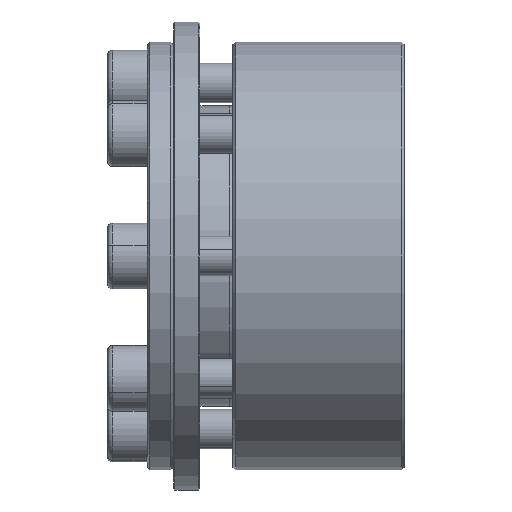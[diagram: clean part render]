
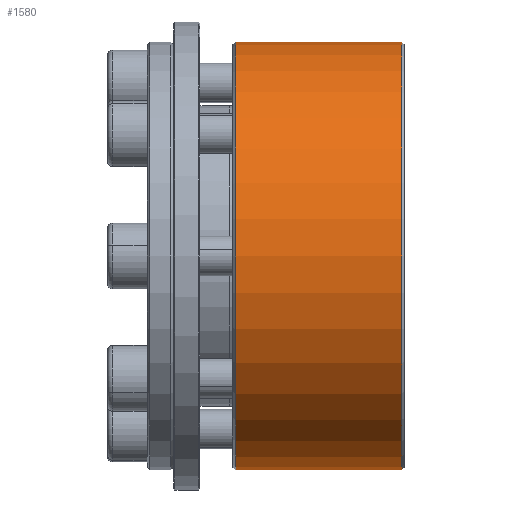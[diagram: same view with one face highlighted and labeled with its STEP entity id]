
A CAD part, front view. The second image highlights one B-rep face of the part: STEP entity #1580.
In plain terms, the highlighted cylindrical face has radius 32.46 mm (diameter 64.92 mm), a partial arc.
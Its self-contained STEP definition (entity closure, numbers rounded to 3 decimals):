
#453 = VERTEX_POINT ( 'NONE', #5755 ) ;
#642 = DIRECTION ( 'NONE',  ( -1., 0., 0. ) ) ;
#674 = CIRCLE ( 'NONE', #1133, 32.46 ) ;
#987 = DIRECTION ( 'NONE',  ( -1., 0., 0. ) ) ;
#1133 = AXIS2_PLACEMENT_3D ( 'NONE', #7966, #2836, #5689 ) ;
#1218 = AXIS2_PLACEMENT_3D ( 'NONE', #6332, #1475, #2176 ) ;
#1475 = DIRECTION ( 'NONE',  ( -1., 0., 0. ) ) ;
#1580 = ADVANCED_FACE ( 'NONE', ( #8515 ), #8473, .T. ) ;
#1740 = CIRCLE ( 'NONE', #3075, 32.46 ) ;
#2176 = DIRECTION ( 'NONE',  ( 0., 0., 1. ) ) ;
#2254 = VERTEX_POINT ( 'NONE', #4271 ) ;
#2836 = DIRECTION ( 'NONE',  ( 1., 0., 0. ) ) ;
#2941 = EDGE_LOOP ( 'NONE', ( #6260, #4934, #9094, #6014 ) ) ;
#3049 = VERTEX_POINT ( 'NONE', #4813 ) ;
#3075 = AXIS2_PLACEMENT_3D ( 'NONE', #6086, #4586, #6733 ) ;
#3250 = VECTOR ( 'NONE', #987, 1000. ) ;
#4090 = EDGE_CURVE ( 'NONE', #4317, #2254, #4630, .T. ) ;
#4271 = CARTESIAN_POINT ( 'NONE',  ( -92.366, 26.04, -32.46 ) ) ;
#4317 = VERTEX_POINT ( 'NONE', #5135 ) ;
#4586 = DIRECTION ( 'NONE',  ( -1., 0., 0. ) ) ;
#4630 = LINE ( 'NONE', #7328, #3250 ) ;
#4812 = EDGE_CURVE ( 'NONE', #453, #3049, #7918, .T. ) ;
#4813 = CARTESIAN_POINT ( 'NONE',  ( -92.366, 26.04, 32.46 ) ) ;
#4934 = ORIENTED_EDGE ( 'NONE', *, *, #8811, .T. ) ;
#5135 = CARTESIAN_POINT ( 'NONE',  ( -67.166, 26.04, -32.46 ) ) ;
#5689 = DIRECTION ( 'NONE',  ( 0., 0., -1. ) ) ;
#5755 = CARTESIAN_POINT ( 'NONE',  ( -67.166, 26.04, 32.46 ) ) ;
#5983 = EDGE_CURVE ( 'NONE', #3049, #2254, #674, .T. ) ;
#6014 = ORIENTED_EDGE ( 'NONE', *, *, #5983, .T. ) ;
#6086 = CARTESIAN_POINT ( 'NONE',  ( -67.166, 26.04, 0. ) ) ;
#6260 = ORIENTED_EDGE ( 'NONE', *, *, #4090, .F. ) ;
#6332 = CARTESIAN_POINT ( 'NONE',  ( -92.766, 26.04, 0. ) ) ;
#6733 = DIRECTION ( 'NONE',  ( 0., 0., 1. ) ) ;
#7207 = CARTESIAN_POINT ( 'NONE',  ( -92.766, 26.04, 32.46 ) ) ;
#7328 = CARTESIAN_POINT ( 'NONE',  ( -92.766, 26.04, -32.46 ) ) ;
#7918 = LINE ( 'NONE', #7207, #8687 ) ;
#7966 = CARTESIAN_POINT ( 'NONE',  ( -92.366, 26.04, 0. ) ) ;
#8473 = CYLINDRICAL_SURFACE ( 'NONE', #1218, 32.46 ) ;
#8515 = FACE_OUTER_BOUND ( 'NONE', #2941, .T. ) ;
#8687 = VECTOR ( 'NONE', #642, 1000. ) ;
#8811 = EDGE_CURVE ( 'NONE', #4317, #453, #1740, .T. ) ;
#9094 = ORIENTED_EDGE ( 'NONE', *, *, #4812, .T. ) ;
